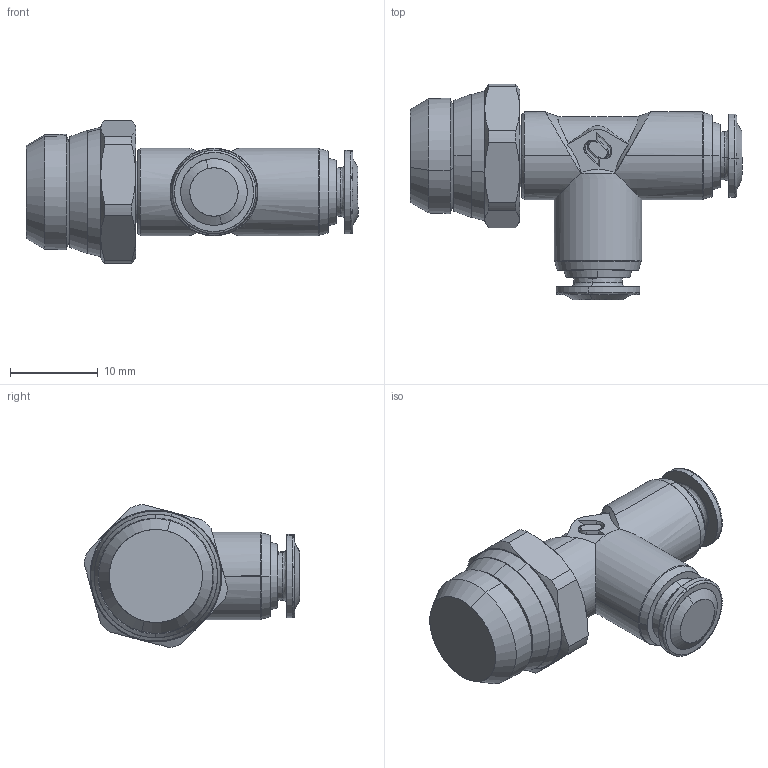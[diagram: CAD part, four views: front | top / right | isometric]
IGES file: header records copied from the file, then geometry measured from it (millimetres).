
Start section: SolidWorks IGES file using analytic representation for surfaces
Global section: file name: K:\Disegni Esecutivi\ALPHA TECHNOLOGIES\Assiemi-89000\89223\89223_iges\8922300004A.igs; native system: SolidWorks 2011; preprocessor: SolidWorks 2011; author: cad05; date: 110221.090753; units: millimetre
Bounding box: 37.8 x 24.58 x 16.31 mm (x, y, z)
Surface area: 2348.1 mm2 (no closed solid volume)
Topology: 0 solids, 0 shells, 145 faces, 2146 edges, 2146 vertices
Faces by surface type: revolution 79, bspline 66
